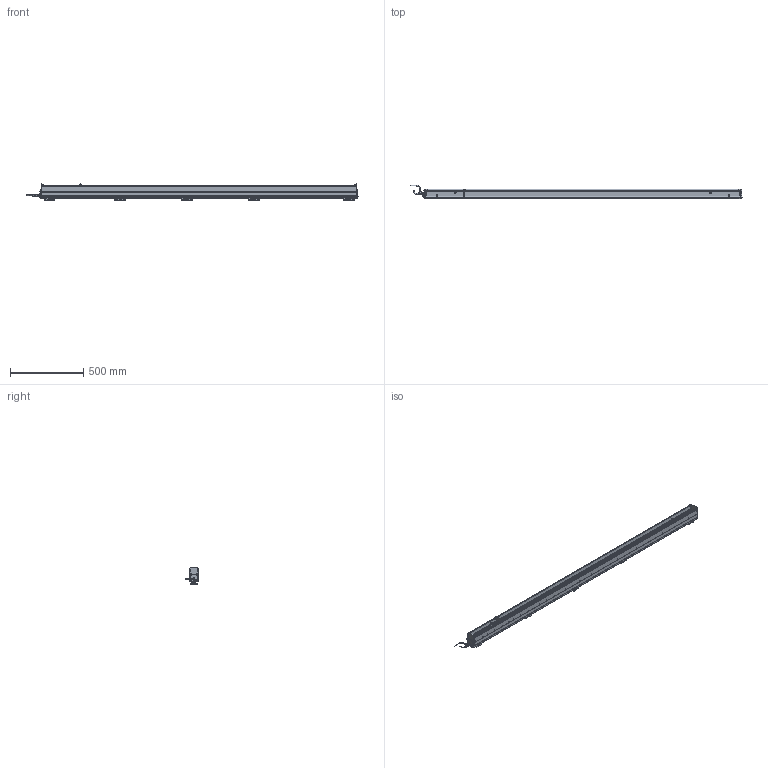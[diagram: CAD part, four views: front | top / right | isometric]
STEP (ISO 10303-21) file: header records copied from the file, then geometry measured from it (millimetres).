
FILE_DESCRIPTION(/* description */ (''),/* implementation_level */ '2;1');
FILE_NAME(/* name */ 'THUNDERION2_3D_2000-2195',/* time_stamp */ '2017-09-28T10:59:21+02:00',/* author */ (''),/* organization */ (''),/* preprocessor_version */ 'ST-DEVELOPER v15.7',/* originating_system */ 'HiCAD 2015 2002.1 Build 408',/* authorisation */ '');
FILE_SCHEMA (('AUTOMOTIVE_DESIGN { 1 0 10303 214 1 1 1 1 }'));
Products named in the file (109): Root; -_ThunderION 2000/2195; -_Side profile; -_Bar; -_Connector straight; EXTRUDED SOLID_0; -_Cord; REVOLVED SOLID_1; REVOLVED SOLID_3; DIN 13-M12x1,5; -_Connector angled; REVOLVED SOLID_2; 4532000100_Mounting bracket bars; -_Side piece; -_Slide piece; -_Bracket small; DIN 13-M3; DIN 76-M3; -_Cable End; light pipe M; light pipe L; -_Cap CE; -_Stud M4; -_Connector M12 male 5 pole_1; -_Contacts; ABSR_1_2_1_1_Inner part; ABSR_1_2_1_2_Inner part; bus; Pg 9; -_Ring tongue terminal; 9230000020_Nut M4; GEWINDE; 9240100020_Spring washer M4; ISO 7051-ST3.5x9.5-C-H_Tapping screws_0; -_Fill; -_Dead end; -_Cap DE; -_Emitter; -_Support Side Profile; -_End Plate
Assembly tree (108 placements, depth 6):
  Root
    -_ThunderION 2000/2195
      -_Side profile
      -_Side profile
      -_Bar
      -_Connector straight
        EXTRUDED SOLID_0
        -_Cord
        REVOLVED SOLID_1
        REVOLVED SOLID_3
          DIN 13-M12x1,5
      -_Connector angled
        REVOLVED SOLID_1
        EXTRUDED SOLID_0
        -_Cord
        REVOLVED SOLID_2
        REVOLVED SOLID_3
          DIN 13-M12x1,5
      4532000100_Mounting bracket bars
        -_Side piece
        -_Side piece
        -_Slide piece
        -_Bracket small
          DIN 13-M3
          DIN 13-M3
          DIN 76-M3
          DIN 76-M3
      4532000100_Mounting bracket bars
        -_Side piece
        -_Side piece
        -_Slide piece
        -_Bracket small
          DIN 13-M3
          DIN 13-M3
          DIN 76-M3
          DIN 76-M3
      4532000100_Mounting bracket bars
        -_Side piece
        -_Side piece
        -_Slide piece
        -_Bracket small
          DIN 13-M3
          DIN 13-M3
          DIN 76-M3
          DIN 76-M3
      4532000100_Mounting bracket bars
        -_Side piece
        -_Side piece
        -_Slide piece
        -_Bracket small
          DIN 13-M3
          DIN 13-M3
          DIN 76-M3
          DIN 76-M3
      4532000100_Mounting bracket bars
        -_Side piece
        -_Side piece
        -_Slide piece
        -_Bracket small
          DIN 13-M3
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Bounding box: 2273.34 x 92.21 x 113 mm (x, y, z)
Volume: 6924937.1 mm3; surface area: 1611246.3 mm2
Topology: 101 solids, 116 shells, 4832 faces, 12403 edges, 7551 vertices
Faces by surface type: plane 2050, cylinder 1878, bspline 280, torus 241, sphere 214, cone 169
Full cylindrical faces by diameter (mm): 0.8 x10, 1 x10, 2.387 x20, 2.5 x1, 2.64 x16, 3 x40, 3.141 x2, 3.5 x8, 4 x26, 4.2 x3, 4.4 x1, 5 x4, 5.5 x25, 7.3 x8, 8 x2, 8.4 x2, 9 x6, 9.6 x1, 10 x2, 10.16 x1, 10.5 x2, 11 x4, 12 x5, 12.8 x1, 13.8 x4, 13.86 x1, 14.5 x3, 15.199 x1, 15.2 x1
Entity records: 292386 total; most frequent: CARTESIAN_POINT 84927, DIRECTION 23857, PRESENTATION_STYLE_ASSIGNMENT 23410, OVER_RIDING_STYLED_ITEM 23313, DRAUGHTING_PRE_DEFINED_CURVE_FONT 23276, CURVE_STYLE 23276, ORIENTED_EDGE 23276, EDGE_CURVE 11638
